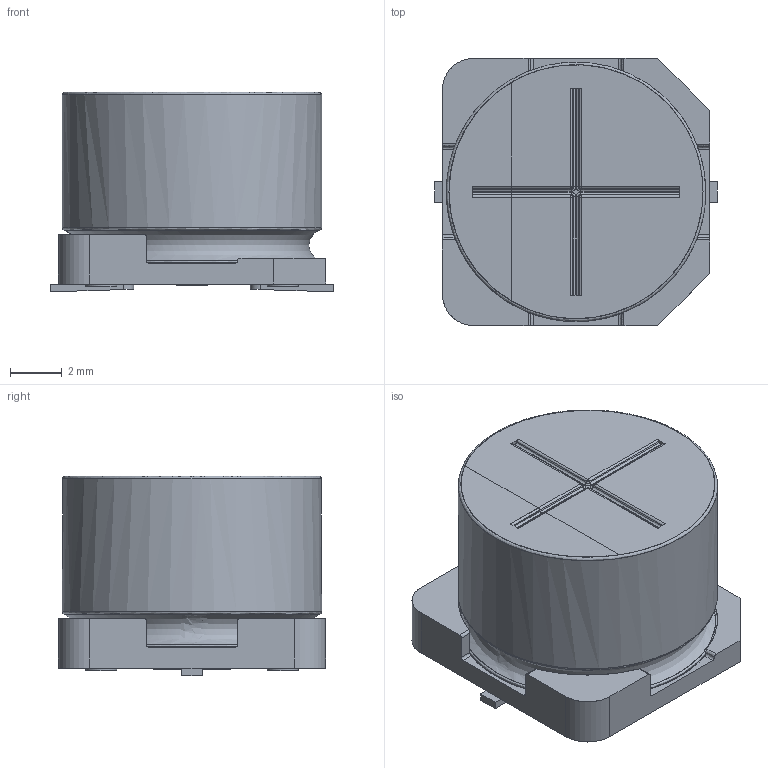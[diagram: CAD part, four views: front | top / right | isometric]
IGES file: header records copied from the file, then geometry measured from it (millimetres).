
Start section: JAMA-IS VERSION  1.0
Bounding box: 10.9 x 10.3 x 7.7 mm (x, y, z)
Surface area: 683.7 mm2 (no closed solid volume)
Topology: 0 solids, 0 shells, 134 faces, 1310 edges, 1290 vertices
Faces by surface type: bspline 134
